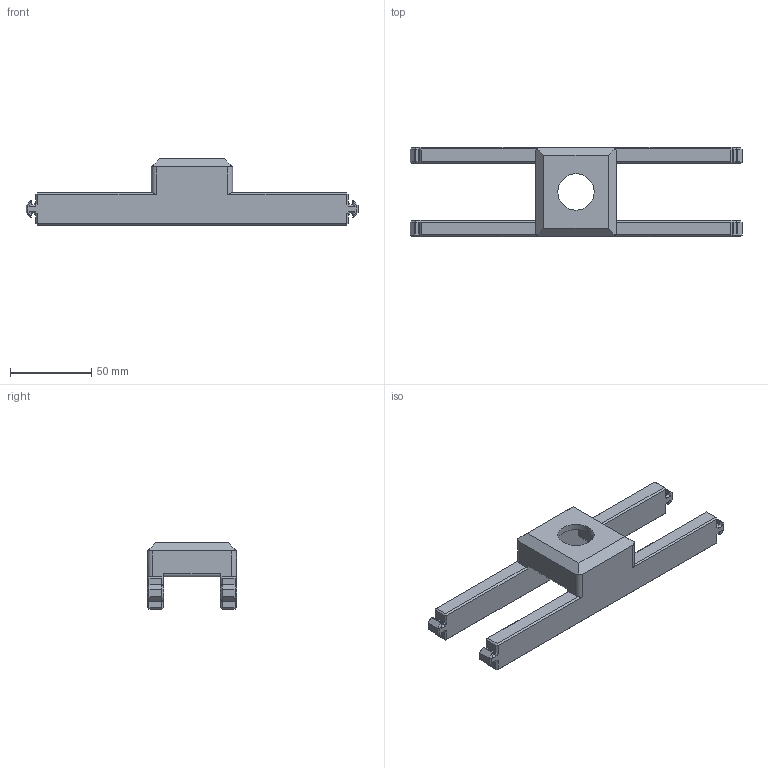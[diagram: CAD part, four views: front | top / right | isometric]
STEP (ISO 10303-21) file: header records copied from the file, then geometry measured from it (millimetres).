
FILE_DESCRIPTION(/* description */ ('STEP AP242 Edition 2','CAx-IF Rec.Pracs.---Representation and Presentation of Product Manufacturing Information (PMI)---4.0---2014-10-13','CAx-IF Rec.Pracs.---3D Tessellated Geometry---0.4---2014-09-14','2;1','CAx-IF Rec.Pracs.---User Defined Attributes---1.5---2016-08-15'),/* implementation_level */ '2;1');
FILE_NAME(/* name */ 'Tarok - Total Assemply - Emergency Buttom HOlder',/* time_stamp */ '2026-05-23T09:34:07Z',/* author */ (''),/* organization */ (''),/* preprocessor_version */ 'ST-DEVELOPER v20',/* originating_system */ 'ONSHAPE BY PTC INC, 1.215',/* authorisation */ ' ');
FILE_SCHEMA (('AP242_MANAGED_MODEL_BASED_3D_ENGINEERING_MIM_LF { 1 0 10303 442 3 1 4 }'));
Length unit declared in the file: metre
Products named in the file (1): Emergency Buttom HOlder
Bounding box: 204.6 x 55 x 41 mm (x, y, z)
Volume: 107517.1 mm3; surface area: 33087.3 mm2
Topology: 1 solids, 1 shells, 231 faces, 567 edges, 338 vertices
Faces by surface type: plane 222, cylinder 9
Full cylindrical faces by diameter (mm): 22.4 x1
Entity records: 6548 total; most frequent: CARTESIAN_POINT 1136, ORIENTED_EDGE 1132, DIRECTION 1056, EDGE_CURVE 566, LINE 540, VECTOR 540, VERTEX_POINT 338, AXIS2_PLACEMENT_3D 258
